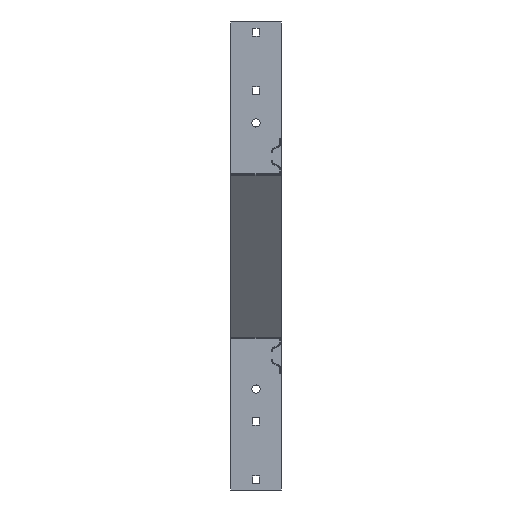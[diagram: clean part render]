
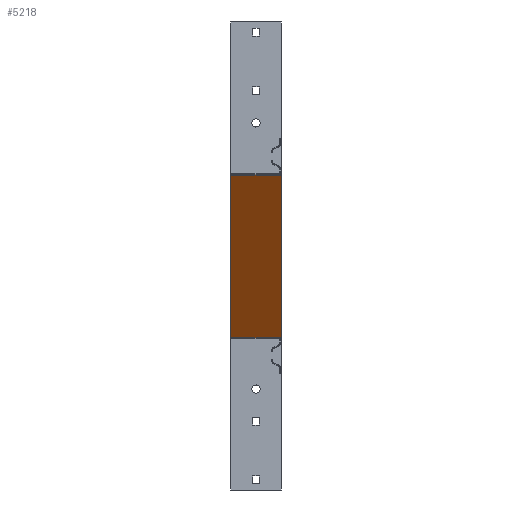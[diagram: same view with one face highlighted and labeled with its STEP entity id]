
A CAD part, left-side view. The second image highlights one B-rep face of the part: STEP entity #5218.
In plain terms, the highlighted planar face has unit normal (-0.779, 0, -0.626) as drawn and (0.78, 0, -0.626) by its records, which use the part's own axes.
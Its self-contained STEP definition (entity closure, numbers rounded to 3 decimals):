
#468 = VECTOR ( 'NONE', #4400, 1000. ) ;
#671 = CARTESIAN_POINT ( 'NONE',  ( 227.331, 0., -280.292 ) ) ;
#1048 = CARTESIAN_POINT ( 'NONE',  ( 227.331, 0., -280.292 ) ) ;
#1189 = VERTEX_POINT ( 'NONE', #671 ) ;
#1725 = ORIENTED_EDGE ( 'NONE', *, *, #5615, .F. ) ;
#2242 = DIRECTION ( 'NONE',  ( -0.626, 0., -0.78 ) ) ;
#2275 = EDGE_LOOP ( 'NONE', ( #10237, #2306, #1725, #10256 ) ) ;
#2306 = ORIENTED_EDGE ( 'NONE', *, *, #7058, .T. ) ;
#2413 = CARTESIAN_POINT ( 'NONE',  ( 451.228, 87., -1.664 ) ) ;
#2587 = LINE ( 'NONE', #1048, #468 ) ;
#2912 = CARTESIAN_POINT ( 'NONE',  ( 451.228, 0., -1.664 ) ) ;
#3169 = VECTOR ( 'NONE', #4220, 1000. ) ;
#3909 = CARTESIAN_POINT ( 'NONE',  ( 451.228, 0., -1.664 ) ) ;
#4220 = DIRECTION ( 'NONE',  ( -0.626, 0., -0.78 ) ) ;
#4400 = DIRECTION ( 'NONE',  ( 0., 1., 0. ) ) ;
#4902 = CARTESIAN_POINT ( 'NONE',  ( 451.559, 0., -1.253 ) ) ;
#5218 = ADVANCED_FACE ( 'NONE', ( #9911 ), #6399, .F. ) ;
#5504 = EDGE_CURVE ( 'NONE', #11064, #1189, #10822, .T. ) ;
#5615 = EDGE_CURVE ( 'NONE', #8271, #8508, #11099, .T. ) ;
#6227 = AXIS2_PLACEMENT_3D ( 'NONE', #6515, #9180, #8324 ) ;
#6399 = PLANE ( 'NONE',  #6227 ) ;
#6515 = CARTESIAN_POINT ( 'NONE',  ( 451.559, 87., -1.253 ) ) ;
#7058 = EDGE_CURVE ( 'NONE', #1189, #8508, #2587, .T. ) ;
#7505 = VECTOR ( 'NONE', #2242, 1000. ) ;
#8271 = VERTEX_POINT ( 'NONE', #2413 ) ;
#8324 = DIRECTION ( 'NONE',  ( 0.626, 0., 0.78 ) ) ;
#8395 = EDGE_CURVE ( 'NONE', #11064, #8271, #9580, .T. ) ;
#8451 = CARTESIAN_POINT ( 'NONE',  ( 451.559, 87., -1.253 ) ) ;
#8508 = VERTEX_POINT ( 'NONE', #8887 ) ;
#8887 = CARTESIAN_POINT ( 'NONE',  ( 227.331, 87., -280.292 ) ) ;
#9180 = DIRECTION ( 'NONE',  ( -0.78, 0., 0.626 ) ) ;
#9515 = VECTOR ( 'NONE', #10594, 1000. ) ;
#9580 = LINE ( 'NONE', #2912, #9515 ) ;
#9911 = FACE_OUTER_BOUND ( 'NONE', #2275, .T. ) ;
#10237 = ORIENTED_EDGE ( 'NONE', *, *, #5504, .T. ) ;
#10256 = ORIENTED_EDGE ( 'NONE', *, *, #8395, .F. ) ;
#10594 = DIRECTION ( 'NONE',  ( 0., 1., 0. ) ) ;
#10822 = LINE ( 'NONE', #4902, #7505 ) ;
#11064 = VERTEX_POINT ( 'NONE', #3909 ) ;
#11099 = LINE ( 'NONE', #8451, #3169 ) ;
